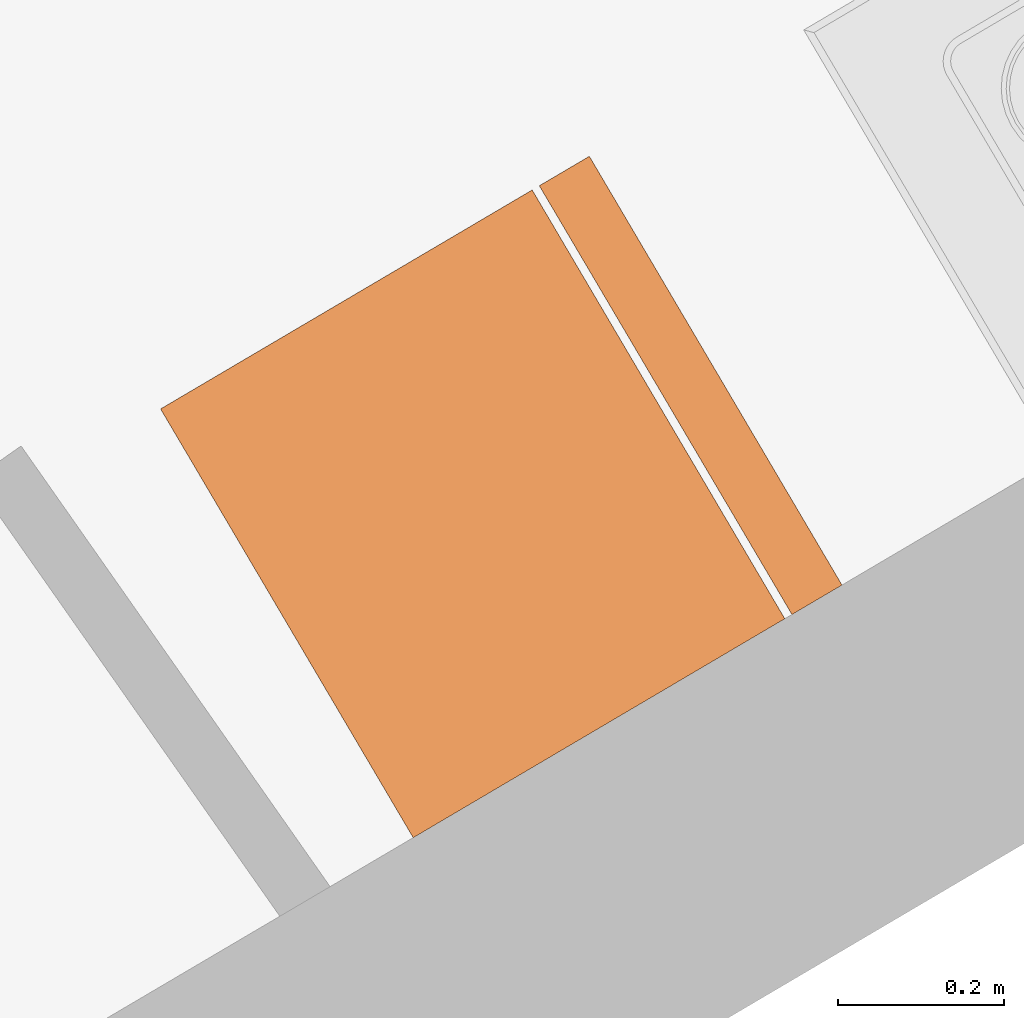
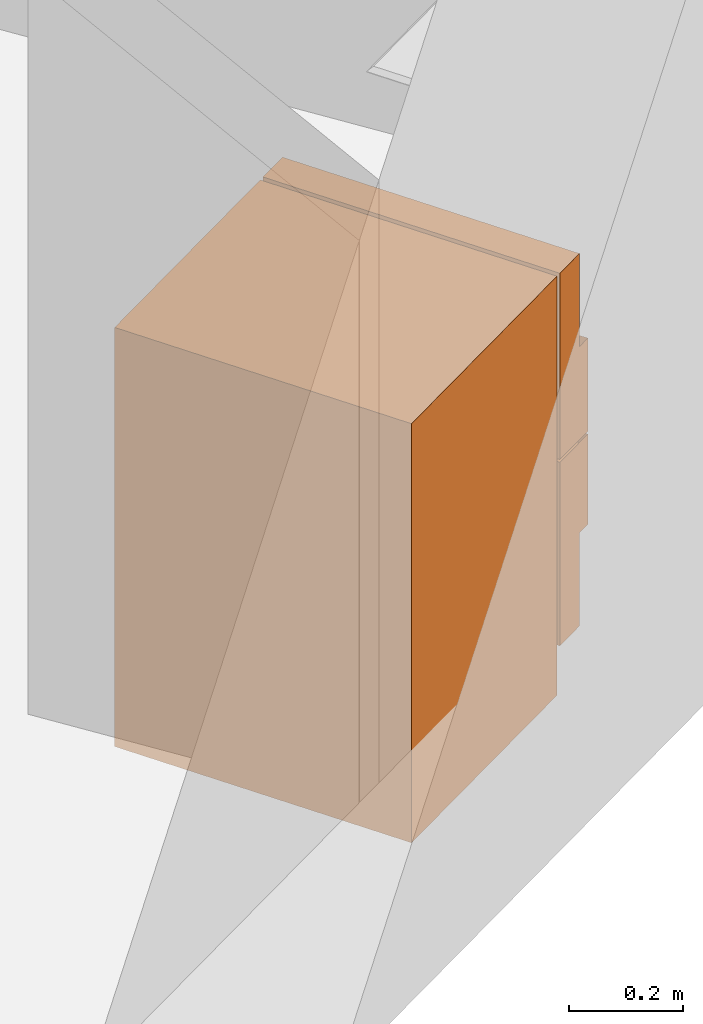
# One storey, part 115 of 121: 1 proxy.
"""IFC2X3 building model written with IfcOpenShell, lengths in metres."""

import ifcopenshell
import ifcopenshell.guid

model = None  # the IFC model being written
_history = None  # IfcOwnerHistory: only IFC2X3 demands one
_inside = {}  # id of a spatial element -> (the spatial element, [elements in it])
_under = {}  # id of a project, library or spatial element -> (it, [spatial elements below it])
_declared = {}  # id of a project -> (the project, [libraries it declares])
_typed = {}  # id of a type object -> (the type object, [elements of that type])
_made_of = {}  # id of a material, layer set ... -> (it, [elements and type objects made of it])


def new_model(schema):
    """Start an empty IFC model of exactly this schema.

    Asked for "IFC4X3", IfcOpenShell would pick the latest addendum, in which some entities
    have other attributes; the version numbers below select the first issue.
    IFC2X3 requires an IfcOwnerHistory on every rooted entity: one is made here for all.
    """
    global model, _history
    if schema == "IFC4X3":
        model = ifcopenshell.file(schema_version=(4, 3, 0, 0))
    else:
        model = ifcopenshell.file(schema=schema)
    _inside.clear()
    _under.clear()
    _declared.clear()
    _typed.clear()
    _made_of.clear()
    _history = None
    if model.schema == "IFC2X3":
        org = make("IfcOrganization", Name="unknown")
        user = make(
            "IfcPersonAndOrganization",
            ThePerson=make("IfcPerson", FamilyName="unknown"),
            TheOrganization=org,
        )
        app = make(
            "IfcApplication",
            ApplicationDeveloper=org,
            Version="unknown",
            ApplicationFullName="unknown",
            ApplicationIdentifier="unknown",
        )
        _history = make(
            "IfcOwnerHistory",
            OwningUser=user,
            OwningApplication=app,
            ChangeAction="ADDED",
            CreationDate=0,
        )
    return model


def make(cls, **values):
    """One entity of the class cls with the attributes given. An attribute that is None is left unset."""
    return model.create_entity(
        cls, **{name: value for name, value in values.items() if value is not None}
    )


def entity(cls, *values):
    """Any entity or typed value of the class cls, its attributes in the order of the schema. None: left unset."""
    e = model.create_entity(cls)
    for i, value in enumerate(values):
        if value is not None:
            e[i] = value
    return e


def rooted(cls, **values):
    """An entity with a GlobalId (a new one), such as an element, a storey or a relation."""
    return make(cls, GlobalId=ifcopenshell.guid.new(), OwnerHistory=_history, **values)


def si_unit(unit_type, name, prefix=None):
    """IfcSIUnit, for example si_unit("LENGTHUNIT", "METRE", prefix="MILLI")."""
    return make("IfcSIUnit", UnitType=unit_type, Prefix=prefix, Name=name)


def converted_unit(unit_type, name, factor, base, dimensions=None, offset=None):
    """IfcConversionBasedUnit, such as the inch: factor (a typed value) times the base unit."""
    return make(
        "IfcConversionBasedUnit"
        if offset is None
        else "IfcConversionBasedUnitWithOffset",
        ConversionOffset=offset,
        Dimensions=None
        if dimensions is None
        else entity("IfcDimensionalExponents", *dimensions),
        UnitType=unit_type,
        Name=name,
        ConversionFactor=make(
            "IfcMeasureWithUnit", ValueComponent=factor, UnitComponent=base
        ),
    )


def derived_unit(unit_type, elements):
    """IfcDerivedUnit: a product of units, each with its exponent."""
    return make(
        "IfcDerivedUnit",
        Elements=[
            make("IfcDerivedUnitElement", Unit=unit, Exponent=power)
            for unit, power in elements
        ],
        UnitType=unit_type,
    )


def money_unit(currency):
    """IfcMonetaryUnit."""
    return make("IfcMonetaryUnit", Currency=currency)


def assignment(units):
    """IfcUnitAssignment: the units of a project."""
    return None if units is None else make("IfcUnitAssignment", Units=units)


def point(xyz):
    """IfcCartesianPoint."""
    return None if xyz is None else make("IfcCartesianPoint", Coordinates=xyz)


def direction(xyz):
    """IfcDirection."""
    return None if xyz is None else make("IfcDirection", DirectionRatios=xyz)


def frame(location, z_axis=None, x_axis=None):
    """IfcAxis2Placement3D, a coordinate frame: its origin and axes. An axis left out is left unset."""
    return make(
        "IfcAxis2Placement3D",
        Location=point(location),
        Axis=direction(z_axis),
        RefDirection=direction(x_axis),
    )


def origin_with_axes():
    """The frame at (0, 0, 0) with the z axis (0, 0, 1) and the x axis (1, 0, 0) written out."""
    return frame((0.0, 0.0, 0.0), z_axis=(0.0, 0.0, 1.0), x_axis=(1.0, 0.0, 0.0))


def place(relative_to, where):
    """IfcLocalPlacement: puts the frame where relative to a parent placement (None: the world)."""
    return make(
        "IfcLocalPlacement", PlacementRelTo=relative_to, RelativePlacement=where
    )


def context(
    kind, dimensions, precision=None, world=None, true_north=None, identifier=None
):
    """IfcGeometricRepresentationContext, for example the 3D "Model" context."""
    return make(
        "IfcGeometricRepresentationContext",
        ContextIdentifier=identifier,
        ContextType=kind,
        CoordinateSpaceDimension=dimensions,
        Precision=precision,
        WorldCoordinateSystem=world,
        TrueNorth=true_north,
    )


def subcontext(parent, identifier, kind, view, scale=None):
    """IfcGeometricRepresentationSubContext, for example "Body" below "Model"."""
    return make(
        "IfcGeometricRepresentationSubContext",
        ContextIdentifier=identifier,
        ContextType=kind,
        ParentContext=parent,
        TargetScale=scale,
        TargetView=view,
    )


def project(units=None, contexts=None):
    """IfcProject with its units and contexts."""
    return rooted(
        "IfcProject",
        Name="project",
        RepresentationContexts=contexts,
        UnitsInContext=assignment(units),
    )


def spatial(cls, under=None, at=None, **own):
    """A site, building, storey or space (cls), placed at a placement, below another one or the project."""
    s = rooted(cls, ObjectPlacement=at, **own)
    if under is not None:
        _under.setdefault(under.id(), (under, []))[1].append(s)
    return s


def faces_of(points, faces, orient=None, outer=None):
    """IfcFace entities. A face is a list of loops; a loop is a list of indices into points, from 0.

    orient and outer hold one flag for each loop. By default every Orientation is true, the
    first loop of a face is its IfcFaceOuterBound and the others are IfcFaceBound.
    """
    made = []
    for i, loops in enumerate(faces):
        bounds = []
        for j, loop in enumerate(loops):
            is_outer = j == 0 if outer is None else outer[i][j]
            bounds.append(
                make(
                    "IfcFaceOuterBound" if is_outer else "IfcFaceBound",
                    Bound=make("IfcPolyLoop", Polygon=[points[k] for k in loop]),
                    Orientation=True if orient is None else orient[i][j],
                )
            )
        made.append(make("IfcFace", Bounds=bounds))
    return made


def open_shell(faces, orient=None, outer=None):
    """The faces of one IfcOpenShell. surface_model builds it on its shared points."""
    return ("IfcOpenShell", faces, orient, outer)


def faceted_brep(points, faces, orient=None, outer=None, voids=None):
    """IfcFacetedBrep: a solid bounded by flat faces; with voids (closed shells), ...WithVoids."""
    shared = [point(p) for p in points]
    hull = make("IfcClosedShell", CfsFaces=faces_of(shared, faces, orient, outer))
    if voids is None:
        return make("IfcFacetedBrep", Outer=hull)
    return make(
        "IfcFacetedBrepWithVoids",
        Outer=hull,
        Voids=[
            make(cls, CfsFaces=faces_of(shared, fs, o, b)) for cls, fs, o, b in voids
        ],
    )


def surface_model(cls, points, shells):
    """IfcFaceBasedSurfaceModel or IfcShellBasedSurfaceModel (cls): surfaces that need not close."""
    shared = [point(p) for p in points]
    made = [make(c, CfsFaces=faces_of(shared, fs, o, b)) for c, fs, o, b in shells]
    if cls == "IfcFaceBasedSurfaceModel":
        return make(cls, FbsmFaces=made)
    return make(cls, SbsmBoundary=made)


def shape(context_of_items, identifier, shape_type, items):
    """IfcShapeRepresentation: the items that make up one representation, for example the "Body"."""
    return make(
        "IfcShapeRepresentation",
        ContextOfItems=context_of_items,
        RepresentationIdentifier=identifier,
        RepresentationType=shape_type,
        Items=items,
    )


def source(mapping_origin, context_of_items, identifier, shape_type, items):
    """IfcRepresentationMap: a shape defined once, which mapped items show again and again."""
    return make(
        "IfcRepresentationMap",
        MappingOrigin=mapping_origin,
        MappedRepresentation=shape(context_of_items, identifier, shape_type, items),
    )


def transform(
    local_origin,
    x_axis=None,
    y_axis=None,
    z_axis=None,
    scale=None,
    scale2=None,
    scale3=None,
    uniform=True,
):
    """IfcCartesianTransformationOperator3D, or its non-uniform kind. x_axis, y_axis, z_axis: its Axis1, 2, 3."""
    if uniform:
        return make(
            "IfcCartesianTransformationOperator3D",
            Axis1=direction(x_axis),
            Axis2=direction(y_axis),
            LocalOrigin=point(local_origin),
            Scale=scale,
            Axis3=direction(z_axis),
        )
    return make(
        "IfcCartesianTransformationOperator3DnonUniform",
        Axis1=direction(x_axis),
        Axis2=direction(y_axis),
        LocalOrigin=point(local_origin),
        Scale=scale,
        Axis3=direction(z_axis),
        Scale2=scale2,
        Scale3=scale3,
    )


def mapped(mapping_source, mapping_target):
    """IfcMappedItem: shows the shape of a source again, moved by a transform."""
    return make(
        "IfcMappedItem", MappingSource=mapping_source, MappingTarget=mapping_target
    )


def made_of(thing, what):
    """Note that an element or type object is made of a material, layer set ...; save() writes the relation."""
    if what is not None:
        _made_of.setdefault(what.id(), (what, []))[1].append(thing)
    return thing


def type_object(cls, material=None, **own):
    """A type object (cls), such as IfcWallType, which elements share."""
    return made_of(rooted(cls, **own), material)


def element(
    cls,
    number,
    at=None,
    inside=None,
    cuts=None,
    type_object=None,
    material=None,
    context=None,
    identifier="Body",
    shape_type=None,
    held_by="IfcProductDefinitionShape",
    body=None,
    shapes=None,
    **own,
):
    """One element of the class cls, such as IfcWall. Its Tag is "e" and its number.

    at: its placement. inside: the storey or other place that contains it. cuts: it is an
    opening in that element (IfcRelVoidsElement). A single representation is given by context,
    identifier, shape_type and body (its items); several are given by shapes. held_by: the class
    of the entity that holds the representations. save() writes the other relations.
    """
    e = rooted(cls, Tag="e%d" % number, ObjectPlacement=at, **own)
    if body is not None:
        shapes = [shape(context, identifier, shape_type, body)]
    if shapes is not None:
        e.Representation = make(held_by, Representations=shapes)
    if inside is not None:
        _inside.setdefault(inside.id(), (inside, []))[1].append(e)
    if cuts is not None:
        rooted(
            "IfcRelVoidsElement", RelatingBuildingElement=cuts, RelatedOpeningElement=e
        )
    if type_object is not None:
        _typed.setdefault(type_object.id(), (type_object, []))[1].append(e)
    return made_of(e, material)


def aggregate(whole, parts):
    """IfcRelAggregates: a whole, such as a stair, and the parts it consists of."""
    return rooted("IfcRelAggregates", RelatingObject=whole, RelatedObjects=parts)


def save(model, path):
    """Write the relations noted so far, then the file.

    IfcRelAggregates (storeys below a building ...), IfcRelContainedInSpatialStructure (elements
    in a storey), IfcRelDefinesByType, IfcRelAssociatesMaterial and IfcRelDeclares: one each for
    every whole, place, type object, material and project.
    """
    for whole, parts in _under.values():
        aggregate(whole, parts)
    for where, things in _inside.values():
        rooted(
            "IfcRelContainedInSpatialStructure",
            RelatedElements=things,
            RelatingStructure=where,
        )
    for kind, things in _typed.values():
        rooted("IfcRelDefinesByType", RelatedObjects=things, RelatingType=kind)
    for what, things in _made_of.values():
        rooted("IfcRelAssociatesMaterial", RelatedObjects=things, RelatingMaterial=what)
    for by, libraries in _declared.values():
        rooted("IfcRelDeclares", RelatingContext=by, RelatedDefinitions=libraries)
    model.write(path)


model = new_model("IFC2X3")

# Units and contexts
model_context = context("Model", 3, precision=1e-05, world=origin_with_axes(), true_north=direction((0.0, 1.0)))
body_context = subcontext(model_context, "Body", "Model", "MODEL_VIEW")
ifc_project = project(units=[si_unit("LENGTHUNIT", "METRE"), si_unit("AREAUNIT", "SQUARE_METRE"), si_unit("VOLUMEUNIT", "CUBIC_METRE"), converted_unit("PLANEANGLEUNIT", "DEGREE", entity("IfcPlaneAngleMeasure", 0.0174532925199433), si_unit("PLANEANGLEUNIT", "RADIAN"), dimensions=[0, 0, 0, 0, 0, 0, 0]), money_unit("CHF"), converted_unit("TIMEUNIT", "Year", entity("IfcTimeMeasure", 31557600.0), si_unit("TIMEUNIT", "SECOND"), dimensions=[0, 0, 1, 0, 0, 0, 0]), si_unit("MASSUNIT", "GRAM", prefix="KILO"), si_unit("THERMODYNAMICTEMPERATUREUNIT", "DEGREE_CELSIUS"), si_unit("LUMINOUSINTENSITYUNIT", "LUMEN"), si_unit("ENERGYUNIT", "JOULE", prefix="MEGA"), derived_unit("THERMALCONDUCTANCEUNIT", [(si_unit("POWERUNIT", "WATT"), 1), (si_unit("LENGTHUNIT", "METRE"), -1), (si_unit("THERMODYNAMICTEMPERATUREUNIT", "KELVIN"), -1)]), derived_unit("SPECIFICHEATCAPACITYUNIT", [(si_unit("ENERGYUNIT", "JOULE"), 1), (si_unit("MASSUNIT", "GRAM", prefix="KILO"), -1), (si_unit("THERMODYNAMICTEMPERATUREUNIT", "KELVIN"), -1)]), derived_unit("MASSDENSITYUNIT", [(si_unit("MASSUNIT", "GRAM", prefix="KILO"), 1), (si_unit("VOLUMEUNIT", "CUBIC_METRE"), -1)])], contexts=[model_context])

# Site, building, storey
site_placement = place(None, origin_with_axes())
site = spatial("IfcSite", under=ifc_project, at=site_placement, Name="Site", CompositionType="ELEMENT")
building_placement = place(site_placement, origin_with_axes())
building = spatial("IfcBuilding", under=site, at=building_placement, Name="Bâtiment", CompositionType="ELEMENT")
storey_placement = place(building_placement, frame((0.0, 0.0, 2.75), z_axis=(0.0, 0.0, 1.0), x_axis=(1.0, 0.0, 0.0)))
storey = spatial("IfcBuildingStorey", under=building, at=storey_placement, Name="Etage 1", CompositionType="ELEMENT", Elevation=2.75)

# Proxy
building_element_proxy_type = type_object("IfcBuildingElementProxyType", PredefinedType="NOTDEFINED")
shared_shape = source(origin_with_axes(), body_context, "Body", "SurfaceModel", [
    faceted_brep([(0.0, 0.08, 0.1), (0.0, 0.08, 0.9), (-0.6, 0.08, 0.9), (-0.6, 0.08, 0.1), (0.0, 0.6, 0.1), (0.0, 0.6, 0.9), (-0.6, 0.6, 0.9), (-0.6, 0.6, 0.1)], [[[0, 1, 2, 3]], [[4, 5, 1, 0]], [[1, 5, 6, 2]], [[3, 2, 6, 7]], [[0, 3, 7, 4]], [[7, 6, 5, 4]]]),
    faceted_brep([(0.0, 0.08, 0.0), (0.0, 0.08, 0.1), (-0.6, 0.08, 0.1), (-0.6, 0.08, 0.0), (0.0, 0.6, 0.0), (0.0, 0.6, 0.1), (-0.6, 0.6, 0.1), (-0.6, 0.6, 0.0)], [[[0, 1, 2, 3]], [[4, 5, 1, 0]], [[1, 5, 6, 2]], [[3, 2, 6, 7]], [[0, 3, 7, 4]], [[7, 6, 5, 4]]]),
    faceted_brep([(0.0, 0.07, 0.1), (0.0, 0.0, 0.1), (-0.6, 0.0, 0.1), (-0.6, 0.07, 0.1), (0.0, 0.07000000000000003, 0.494), (0.0, 0.0, 0.494), (-0.6, 0.0, 0.494), (-0.6, 0.07000000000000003, 0.494)], [[[0, 1, 2, 3]], [[4, 5, 1, 0]], [[1, 5, 6, 2]], [[3, 2, 6, 7]], [[0, 3, 7, 4]], [[7, 6, 5, 4]]]),
    faceted_brep([(0.0, 0.07, 0.5), (0.0, 0.0, 0.5), (-0.6, 0.0, 0.5), (-0.6, 0.07, 0.5), (0.0, 0.07000000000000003, 0.9), (0.0, 0.0, 0.9), (-0.6, 0.0, 0.9), (-0.6, 0.07000000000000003, 0.9)], [[[0, 1, 2, 3]], [[4, 5, 1, 0]], [[1, 5, 6, 2]], [[3, 2, 6, 7]], [[0, 3, 7, 4]], [[7, 6, 5, 4]]]),
    surface_model("IfcShellBasedSurfaceModel", [(-0.6, -0.03, 0.3), (-0.6, 0.0, 0.3), (-0.6, 0.0, 0.4940000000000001), (-0.6, -0.03, 0.4940000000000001)], [open_shell([[[0, 1, 2, 3]]])]),
    surface_model("IfcShellBasedSurfaceModel", [(-0.6, -0.03, 0.3), (-0.57, -0.03, 0.3), (-0.57, -0.03, 0.4940000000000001), (-0.6, -0.03, 0.4940000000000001)], [open_shell([[[0, 1, 2, 3]]])]),
    surface_model("IfcShellBasedSurfaceModel", [(-0.6, -0.03, 0.5), (-0.6, 0.0, 0.5), (-0.6, 0.0, 0.7), (-0.6, -0.03, 0.7)], [open_shell([[[0, 1, 2, 3]]])]),
    surface_model("IfcShellBasedSurfaceModel", [(-0.6, -0.03, 0.5), (-0.57, -0.03, 0.5), (-0.57, -0.03, 0.7), (-0.6, -0.03, 0.7)], [open_shell([[[0, 1, 2, 3]]])]),
])
proxy_placement = place(storey_placement, frame((9561.281680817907, -1070.109331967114, 57.49999999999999), z_axis=(0.0, 0.0, 1.0), x_axis=(-0.5076483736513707, 0.8615643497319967, 0.0)))
element("IfcBuildingElementProxy", 1, at=proxy_placement, inside=storey, type_object=building_element_proxy_type, Name="Obj.-019", context=body_context, shape_type="MappedRepresentation", body=[
    mapped(shared_shape, transform((0.0, 0.0, 0.0))),
])

save(model, "model.ifc")
